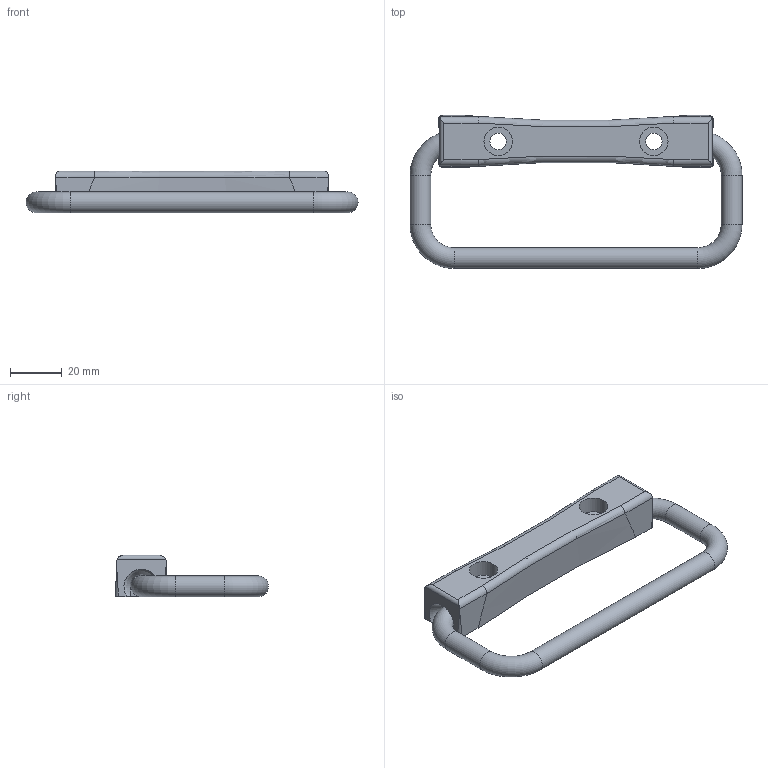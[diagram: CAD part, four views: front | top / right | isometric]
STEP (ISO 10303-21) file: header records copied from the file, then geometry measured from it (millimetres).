
FILE_DESCRIPTION( ( 'STEP AP203' ), '1' );
FILE_NAME( 'C:/Temp/Ganter_Step_05_03_2020/data/1_2/gn425_9/Stainless Steel-Folding handle GN 425.9-120-NI-B-4-SW (deactivated).stp', '2020-03-05T10:14:53', ( 'License CC BY-ND 4.0' ), ( 'CADENAS' ), ' ', 'PARTsolutions', ' ' );
FILE_SCHEMA( ( 'CONFIG_CONTROL_DESIGN' ) );
Length unit declared in the file: millimetre
Products named in the file (3): Stainless Steel-Folding handle GN 425.9-120-NI-B-4-SW (deactivated); _Edelstahl-Klappgriff GN 425.9-120-NI-B-4-SW (zugeklappt)-1; _Edelstahl-Klappgriff GN 425.9-120-NI-B-4-SW (unbetaetigt)-2
Assembly tree (2 placements, depth 2):
  Stainless Steel-Folding handle GN 425.9-120-NI-B-4-SW (deactivated)
    _Edelstahl-Klappgriff GN 425.9-120-NI-B-4-SW (zugeklappt)-1
    _Edelstahl-Klappgriff GN 425.9-120-NI-B-4-SW (unbetaetigt)-2
Bounding box: 128 x 59 x 16 mm (x, y, z)
Volume: 37024 mm3; surface area: 14710.7 mm2
Topology: 2 solids, 2 shells, 57 faces, 146 edges, 95 vertices
Faces by surface type: plane 26, cylinder 23, torus 8
Full cylindrical faces by diameter (mm): 6.4 x2, 8 x5, 11 x2
Entity records: 2012 total; most frequent: CARTESIAN_POINT 568, DIRECTION 278, ORIENTED_EDGE 264, EDGE_CURVE 132, AXIS2_PLACEMENT_3D 108, VERTEX_POINT 94, EDGE_LOOP 76, FACE_OUTER_BOUND 70
